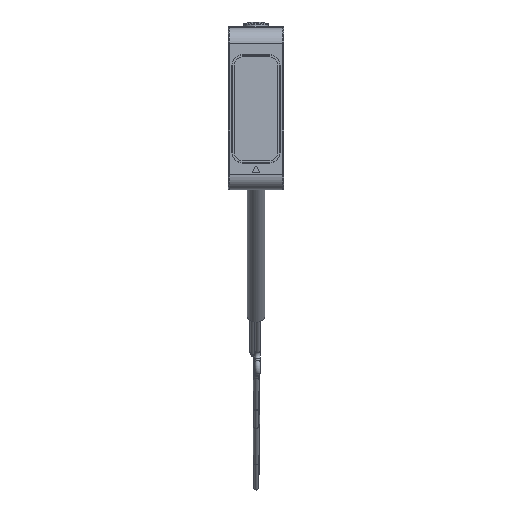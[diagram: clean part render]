
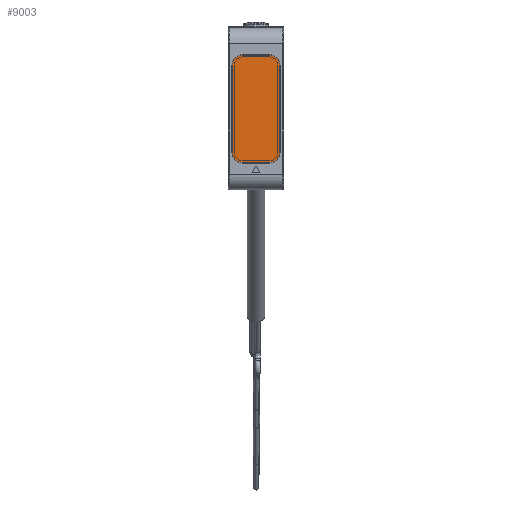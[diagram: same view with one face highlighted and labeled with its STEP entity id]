
A CAD part, top view. The second image highlights one B-rep face of the part: STEP entity #9003.
In plain terms, the highlighted planar face has unit normal (0, 0, 1).
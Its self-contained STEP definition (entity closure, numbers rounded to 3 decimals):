
#2237=FACE_OUTER_BOUND('',#11139,.T.);
#3711=LINE('',#35759,#5641);
#3714=LINE('',#35767,#5644);
#3717=LINE('',#35775,#5647);
#3720=LINE('',#35783,#5650);
#5641=VECTOR('',#29666,1.);
#5644=VECTOR('',#29675,1.);
#5647=VECTOR('',#29684,1.);
#5650=VECTOR('',#29693,1.);
#8350=PLANE('',#27546);
#9003=ADVANCED_FACE('',(#2237),#8350,.T.);
#11139=EDGE_LOOP('',(#13088,#13089,#13090,#13091,#13092,#13093,#13094,#13095));
#13088=ORIENTED_EDGE('',*,*,#22985,.F.);
#13089=ORIENTED_EDGE('',*,*,#22999,.T.);
#13090=ORIENTED_EDGE('',*,*,#22997,.F.);
#13091=ORIENTED_EDGE('',*,*,#22995,.T.);
#13092=ORIENTED_EDGE('',*,*,#22993,.F.);
#13093=ORIENTED_EDGE('',*,*,#22991,.T.);
#13094=ORIENTED_EDGE('',*,*,#22989,.F.);
#13095=ORIENTED_EDGE('',*,*,#22987,.T.);
#20425=VERTEX_POINT('',#35754);
#20426=VERTEX_POINT('',#35756);
#20427=VERTEX_POINT('',#35760);
#20428=VERTEX_POINT('',#35764);
#20429=VERTEX_POINT('',#35768);
#20430=VERTEX_POINT('',#35772);
#20431=VERTEX_POINT('',#35776);
#20432=VERTEX_POINT('',#35780);
#22985=EDGE_CURVE('',#20425,#20426,#26710,.T.);
#22987=EDGE_CURVE('',#20427,#20426,#3711,.T.);
#22989=EDGE_CURVE('',#20427,#20428,#26711,.T.);
#22991=EDGE_CURVE('',#20429,#20428,#3714,.T.);
#22993=EDGE_CURVE('',#20429,#20430,#26712,.T.);
#22995=EDGE_CURVE('',#20431,#20430,#3717,.T.);
#22997=EDGE_CURVE('',#20431,#20432,#26713,.T.);
#22999=EDGE_CURVE('',#20425,#20432,#3720,.T.);
#26710=CIRCLE('',#27534,1.95);
#26711=CIRCLE('',#27537,1.95);
#26712=CIRCLE('',#27540,1.95);
#26713=CIRCLE('',#27543,1.95);
#27534=AXIS2_PLACEMENT_3D('',#35755,#29661,#29662);
#27537=AXIS2_PLACEMENT_3D('',#35763,#29670,#29671);
#27540=AXIS2_PLACEMENT_3D('',#35771,#29679,#29680);
#27543=AXIS2_PLACEMENT_3D('',#35779,#29688,#29689);
#27546=AXIS2_PLACEMENT_3D('',#35785,#29696,#29697);
#29661=DIRECTION('',(0.,0.,-1.));
#29662=DIRECTION('',(1.,0.,0.));
#29666=DIRECTION('',(1.,0.,0.));
#29670=DIRECTION('',(0.,0.,-1.));
#29671=DIRECTION('',(0.,-1.,0.));
#29675=DIRECTION('',(0.,-1.,0.));
#29679=DIRECTION('',(0.,0.,-1.));
#29680=DIRECTION('',(-1.,0.,0.));
#29684=DIRECTION('',(-1.,0.,0.));
#29688=DIRECTION('',(0.,0.,-1.));
#29689=DIRECTION('',(0.,1.,0.));
#29693=DIRECTION('',(0.,1.,0.));
#29696=DIRECTION('',(0.,0.,1.));
#29697=DIRECTION('',(1.,0.,0.));
#35754=CARTESIAN_POINT('',(4.6,-8.5,0.));
#35755=CARTESIAN_POINT('',(2.65,-8.5,0.));
#35756=CARTESIAN_POINT('',(2.65,-10.45,0.));
#35759=CARTESIAN_POINT('',(-2.65,-10.45,0.));
#35760=CARTESIAN_POINT('',(-2.65,-10.45,0.));
#35763=CARTESIAN_POINT('',(-2.65,-8.5,0.));
#35764=CARTESIAN_POINT('',(-4.6,-8.5,0.));
#35767=CARTESIAN_POINT('',(-4.6,8.5,0.));
#35768=CARTESIAN_POINT('',(-4.6,8.5,0.));
#35771=CARTESIAN_POINT('',(-2.65,8.5,0.));
#35772=CARTESIAN_POINT('',(-2.65,10.45,0.));
#35775=CARTESIAN_POINT('',(2.65,10.45,0.));
#35776=CARTESIAN_POINT('',(2.65,10.45,0.));
#35779=CARTESIAN_POINT('',(2.65,8.5,0.));
#35780=CARTESIAN_POINT('',(4.6,8.5,0.));
#35783=CARTESIAN_POINT('',(4.6,-8.5,0.));
#35785=CARTESIAN_POINT('',(0.,0.,0.));
